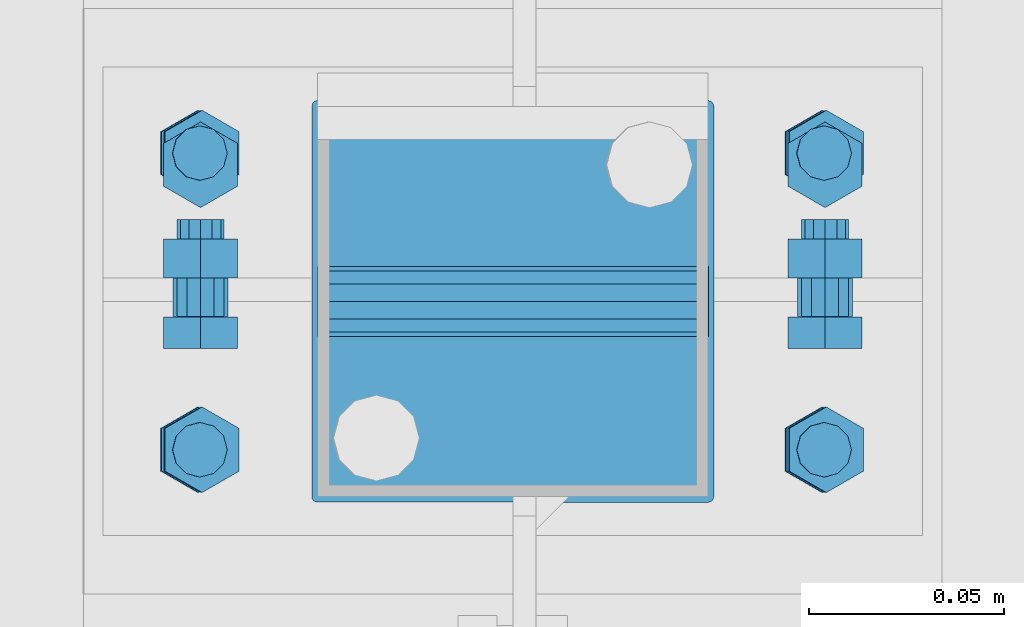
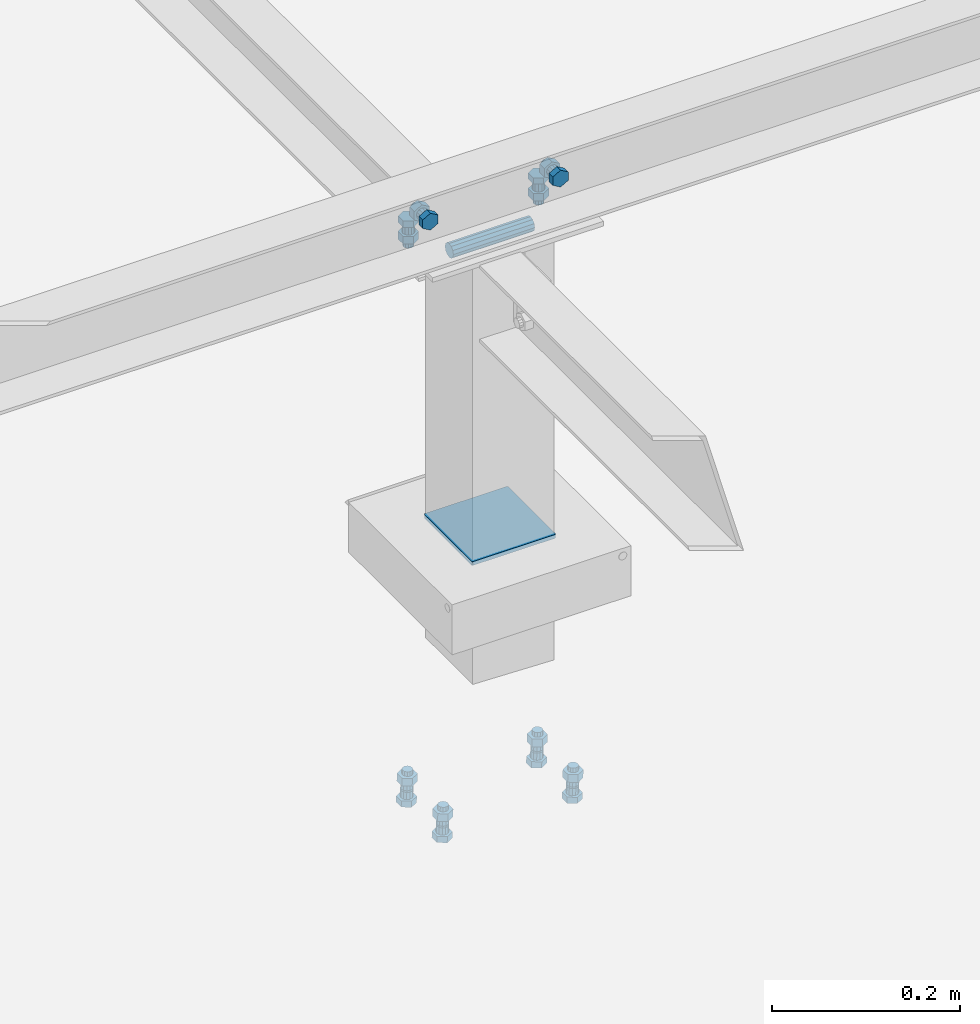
# One storey, part 343 of 3134: 6 mechanical fasteners, 4 elements without a shape of their own.
"""IFC2X3 building model written with IfcOpenShell, lengths in millimetres."""

from ifc_helpers import new_model, si_unit, frame, origin_with_axes, place, context, subcontext, project, spatial, faceted_brep, source, transform, mapped, material, type_object, element, aggregate, save


model = new_model("IFC2X3")

# Units and contexts
model_context = context("Model", 3, precision=1e-05, world=origin_with_axes())
body_context = subcontext(model_context, "Body", "Model", "MODEL_VIEW")
ifc_project = project(units=[si_unit("LENGTHUNIT", "METRE", prefix="MILLI"), si_unit("AREAUNIT", "SQUARE_METRE"), si_unit("VOLUMEUNIT", "CUBIC_METRE"), si_unit("MASSUNIT", "GRAM", prefix="KILO"), si_unit("TIMEUNIT", "SECOND"), si_unit("PLANEANGLEUNIT", "RADIAN"), si_unit("SOLIDANGLEUNIT", "STERADIAN"), si_unit("THERMODYNAMICTEMPERATUREUNIT", "DEGREE_CELSIUS"), si_unit("LUMINOUSINTENSITYUNIT", "LUMEN")], contexts=[model_context])

# Site, building, storey
site_placement = place(None, origin_with_axes())
site = spatial("IfcSite", under=ifc_project, at=site_placement, CompositionType="ELEMENT")
building_placement = place(site_placement, origin_with_axes())
building = spatial("IfcBuilding", under=site, at=building_placement, Name="Undefined", CompositionType="ELEMENT")
storey_placement = place(building_placement, origin_with_axes())
storey = spatial("IfcBuildingStorey", under=building, at=storey_placement, Name="Undefined", CompositionType="ELEMENT", Elevation=0.0)

# Assembly, mechanical fastener
assembly_1_placement = place(storey_placement, origin_with_axes())
assembly_1 = element("IfcElementAssembly", 1, at=assembly_1_placement, inside=storey, AssemblyPlace="NOTDEFINED", PredefinedType="RIGID_FRAME")
ifc_material_1 = material(Name="8.8")
mechanical_fastener_type = type_object("IfcMechanicalFastenerType", Name="Bolt assembly")
shared_shape_1 = source(origin_with_axes(), body_context, "Body", "Brep", [
    faceted_brep([(10.9696551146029, -14.0, 0.0), (5.48482755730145, -14.0, 9.5), (-5.48482755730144, -14.0, 9.5), (-10.9696551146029, -14.0, 1.34339530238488e-15), (-5.48482755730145, -14.0, -9.5), (5.48482755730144, -14.0, -9.50000000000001), (5.48482755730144, -6.0, -9.50000000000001), (-5.48482755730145, -6.0, -9.5), (-10.9696551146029, -6.0, 1.34339530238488e-15), (-5.48482755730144, -6.0, 9.5), (5.48482755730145, -6.0, 9.5), (10.9696551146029, -6.0, 0.0), (6.0, -6.0, 0.0), (5.19615242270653, -6.0, 3.00000000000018), (2.99999999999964, -6.0, 5.19615242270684), (-6.21801588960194e-13, -6.0, 6.0), (-3.00000000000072, -6.0, 5.19615242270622), (-5.19615242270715, -6.0, 2.9999999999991), (-6.0, -6.0, -1.24360317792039e-12), (-5.19615242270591, -6.0, -3.00000000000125), (-2.99999999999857, -6.0, -5.19615242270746), (1.85874342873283e-12, -6.0, -6.0), (3.00000000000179, -6.0, -5.1961524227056), (5.19615242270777, -6.0, -2.99999999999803), (5.19615242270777, 24.0, -2.99999999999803), (3.00000000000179, 24.0, -5.1961524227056), (1.85874342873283e-12, 24.0, -6.0), (-2.99999999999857, 24.0, -5.19615242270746), (-5.19615242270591, 24.0, -3.00000000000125), (-6.0, 24.0, -1.24360317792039e-12), (-5.19615242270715, 24.0, 2.9999999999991), (-3.00000000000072, 24.0, 5.19615242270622), (-6.21801588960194e-13, 24.0, 6.0), (2.99999999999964, 24.0, 5.19615242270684), (5.19615242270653, 24.0, 3.00000000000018), (6.0, 24.0, 0.0), (10.9696551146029, 6.00000000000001, 0.0), (5.48482755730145, 6.00000000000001, 9.5), (-5.48482755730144, 6.00000000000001, 9.5), (-10.9696551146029, 6.00000000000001, 1.34339530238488e-15), (-5.48482755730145, 6.00000000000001, -9.5), (5.48482755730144, 6.00000000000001, -9.50000000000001), (5.48482755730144, 16.0, -9.50000000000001), (-5.48482755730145, 16.0, -9.5), (-10.9696551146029, 16.0, 1.34339530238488e-15), (-5.48482755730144, 16.0, 9.5), (5.48482755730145, 16.0, 9.5), (10.9696551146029, 16.0, 0.0)], [[[0, 1, 2, 3, 4, 5]], [[6, 7, 8, 9, 10, 11]], [[0, 11, 10, 1]], [[1, 10, 9, 2]], [[2, 9, 8, 3]], [[3, 8, 7, 4]], [[4, 7, 6, 5]], [[5, 6, 11, 0]], [[12, 13, 14, 15, 16, 17, 18, 19, 20, 21, 22, 23]], [[24, 25, 26, 27, 28, 29, 30, 31, 32, 33, 34, 35]], [[12, 35, 34, 13]], [[13, 34, 33, 14]], [[14, 33, 32, 15]], [[15, 32, 31, 16]], [[16, 31, 30, 17]], [[17, 30, 29, 18]], [[18, 29, 28, 19]], [[19, 28, 27, 20]], [[20, 27, 26, 21]], [[21, 26, 25, 22]], [[22, 25, 24, 23]], [[23, 24, 35, 12]], [[36, 37, 38, 39, 40, 41]], [[42, 43, 44, 45, 46, 47]], [[36, 47, 46, 37]], [[37, 46, 45, 38]], [[38, 45, 44, 39]], [[39, 44, 43, 40]], [[40, 43, 42, 41]], [[41, 42, 47, 36]]]),
    faceted_brep([(7.0, -0.1, 0.0), (6.06217782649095, -0.1, 3.50000000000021), (3.49999999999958, -0.1, 6.06217782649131), (-7.25435187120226e-13, -0.1, 7.0), (-3.50000000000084, -0.1, 6.06217782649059), (-6.06217782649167, -0.1, 3.49999999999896), (-7.0, -0.1, -1.45087037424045e-12), (-6.06217782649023, -0.1, -3.50000000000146), (-3.49999999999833, -0.1, -6.06217782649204), (2.1685340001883e-12, -0.1, -7.0), (3.50000000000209, -0.1, -6.06217782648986), (6.0621778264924, -0.1, -3.4999999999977), (6.0621778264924, 6.00000000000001, -3.4999999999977), (3.50000000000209, 6.00000000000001, -6.06217782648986), (2.1685340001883e-12, 6.00000000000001, -7.0), (-3.49999999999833, 6.00000000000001, -6.06217782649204), (-6.06217782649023, 6.00000000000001, -3.50000000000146), (-7.0, 6.00000000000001, -1.45087037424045e-12), (-6.06217782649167, 6.00000000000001, 3.49999999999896), (-3.50000000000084, 6.00000000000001, 6.06217782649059), (-7.25435187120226e-13, 6.00000000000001, 7.0), (3.49999999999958, 6.00000000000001, 6.06217782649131), (6.06217782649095, 6.00000000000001, 3.50000000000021), (7.0, 6.00000000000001, 0.0), (7.0, -5.9, 0.0), (6.06217782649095, -5.9, 3.50000000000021), (3.49999999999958, -5.9, 6.06217782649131), (-7.25435187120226e-13, -5.9, 7.0), (-3.50000000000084, -5.9, 6.06217782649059), (-6.06217782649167, -5.9, 3.49999999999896), (-7.0, -5.9, -1.45087037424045e-12), (-6.06217782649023, -5.9, -3.50000000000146), (-3.49999999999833, -5.9, -6.06217782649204), (2.1685340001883e-12, -5.9, -7.0), (3.50000000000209, -5.9, -6.06217782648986), (6.0621778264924, -5.9, -3.4999999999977), (6.0621778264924, 0.0999999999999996, -3.4999999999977), (3.50000000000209, 0.0999999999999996, -6.06217782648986), (2.1685340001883e-12, 0.0999999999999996, -7.0), (-3.49999999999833, 0.0999999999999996, -6.06217782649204), (-6.06217782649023, 0.0999999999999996, -3.50000000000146), (-7.0, 0.0999999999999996, -1.45087037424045e-12), (-6.06217782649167, 0.0999999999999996, 3.49999999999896), (-3.50000000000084, 0.0999999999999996, 6.06217782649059), (-7.25435187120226e-13, 0.0999999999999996, 7.0), (3.49999999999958, 0.0999999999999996, 6.06217782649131), (6.06217782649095, 0.0999999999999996, 3.50000000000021), (7.0, 0.0999999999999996, 0.0)], [[[0, 1, 2, 3, 4, 5, 6, 7, 8, 9, 10, 11]], [[12, 13, 14, 15, 16, 17, 18, 19, 20, 21, 22, 23]], [[0, 23, 22, 1]], [[1, 22, 21, 2]], [[2, 21, 20, 3]], [[3, 20, 19, 4]], [[4, 19, 18, 5]], [[5, 18, 17, 6]], [[6, 17, 16, 7]], [[7, 16, 15, 8]], [[8, 15, 14, 9]], [[9, 14, 13, 10]], [[10, 13, 12, 11]], [[11, 12, 23, 0]], [[24, 25, 26, 27, 28, 29, 30, 31, 32, 33, 34, 35]], [[36, 37, 38, 39, 40, 41, 42, 43, 44, 45, 46, 47]], [[24, 47, 46, 25]], [[25, 46, 45, 26]], [[26, 45, 44, 27]], [[27, 44, 43, 28]], [[28, 43, 42, 29]], [[29, 42, 41, 30]], [[30, 41, 40, 31]], [[31, 40, 39, 32]], [[32, 39, 38, 33]], [[33, 38, 37, 34]], [[34, 37, 36, 35]], [[35, 36, 47, 24]]]),
])
mechanical_fastener_1_placement = place(assembly_1_placement, frame((78025.0, 5135.0, 5850.0), z_axis=(1.0, 0.0, 0.0), x_axis=(0.0, -1.0, 0.0)))
mechanical_fastener_1 = element("IfcMechanicalFastener", 2, at=mechanical_fastener_1_placement, type_object=mechanical_fastener_type, material=ifc_material_1, Name="Bolt assembly", NominalDiameter=12.0, NominalLength=30.0, context=body_context, shape_type="MappedRepresentation", body=[
    mapped(shared_shape_1, transform((0.0, -5.32963895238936e-10, -79.9999999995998))),
    mapped(shared_shape_1, transform((0.0, 5.3114490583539e-10, 79.9999999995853))),
])

assembly_2_placement = place(storey_placement, origin_with_axes())
assembly_2 = element("IfcElementAssembly", 3, at=assembly_2_placement, inside=storey, AssemblyPlace="NOTDEFINED", PredefinedType="RIGID_FRAME")
shared_shape_2 = source(origin_with_axes(), body_context, "Body", "Brep", [
    faceted_brep([(7.0, 13.0000253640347, 0.0), (6.06217782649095, 13.0000253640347, 3.50000000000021), (3.49999999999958, 13.0000253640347, 6.06217782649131), (-7.25435187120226e-13, 13.0000253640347, 7.0), (-3.50000000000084, 13.0000253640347, 6.06217782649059), (-6.06217782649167, 13.0000253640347, 3.49999999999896), (-7.0, 13.0000253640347, -1.45087037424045e-12), (-6.06217782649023, 13.0000253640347, -3.50000000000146), (-3.49999999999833, 13.0000253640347, -6.06217782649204), (2.1685340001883e-12, 13.0000253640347, -7.0), (3.50000000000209, 13.0000253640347, -6.06217782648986), (6.0621778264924, 13.0000253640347, -3.4999999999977), (6.0621778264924, 15.0999999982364, -3.4999999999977), (3.50000000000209, 15.0999999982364, -6.06217782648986), (2.1685340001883e-12, 15.0999999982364, -7.0), (-3.49999999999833, 15.0999999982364, -6.06217782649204), (-6.06217782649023, 15.0999999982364, -3.50000000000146), (-7.0, 15.0999999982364, -1.45087037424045e-12), (-6.06217782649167, 15.0999999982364, 3.49999999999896), (-3.50000000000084, 15.0999999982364, 6.06217782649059), (-7.25435187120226e-13, 15.0999999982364, 7.0), (3.49999999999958, 15.0999999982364, 6.06217782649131), (6.06217782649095, 15.0999999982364, 3.50000000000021), (7.0, 15.0999999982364, 0.0)], [[[0, 1, 2, 3, 4, 5, 6, 7, 8, 9, 10, 11]], [[12, 13, 14, 15, 16, 17, 18, 19, 20, 21, 22, 23]], [[0, 23, 22, 1]], [[1, 22, 21, 2]], [[2, 21, 20, 3]], [[3, 20, 19, 4]], [[4, 19, 18, 5]], [[5, 18, 17, 6]], [[6, 17, 16, 7]], [[7, 16, 15, 8]], [[8, 15, 14, 9]], [[9, 14, 13, 10]], [[10, 13, 12, 11]], [[11, 12, 23, 0]]]),
])
mechanical_fastener_2_placement = place(assembly_2_placement, frame((78024.3451187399, 5138.0, 5102.2772055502), z_axis=(-0.99951962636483, 0.0, 0.0309922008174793), x_axis=(0.0, -1.0, 0.0)))
mechanical_fastener_2 = element("IfcMechanicalFastener", 4, at=mechanical_fastener_2_placement, type_object=mechanical_fastener_type, material=ifc_material_1, Name="Bolt assembly", NominalDiameter=12.0, NominalLength=2.0, context=body_context, shape_type="MappedRepresentation", body=[
    mapped(shared_shape_2, transform((0.0, -5.32963895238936e-10, -79.9999999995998))),
    mapped(shared_shape_2, transform((76.0, -5.32963895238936e-10, -79.9999999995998))),
    mapped(shared_shape_2, transform((0.0, 5.3114490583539e-10, 79.9999999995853))),
    mapped(shared_shape_2, transform((76.0, 5.3114490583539e-10, 79.9999999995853))),
])
aggregate(assembly_2, [mechanical_fastener_2])

# Assembly, mechanical fasteners
assembly_3_placement = place(storey_placement, origin_with_axes())
assembly_3 = element("IfcElementAssembly", 5, at=assembly_3_placement, inside=storey, AssemblyPlace="NOTDEFINED", PredefinedType="RIGID_FRAME")
shared_shape_3 = source(origin_with_axes(), body_context, "Body", "Brep", [
    faceted_brep([(9.0, -50.0, 0.0), (7.79422863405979, -50.0, 4.50000000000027), (4.49999999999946, -50.0, 7.79422863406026), (-9.3270238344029e-13, -50.0, 9.0), (-4.50000000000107, -50.0, 7.79422863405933), (-7.79422863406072, -50.0, 4.49999999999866), (-9.0, -50.0, -1.86540476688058e-12), (-7.79422863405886, -50.0, -4.50000000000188), (-4.49999999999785, -50.0, -7.79422863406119), (2.78811514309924e-12, -50.0, -9.0), (4.50000000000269, -50.0, -7.7942286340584), (7.79422863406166, -50.0, -4.49999999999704), (7.79422863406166, 50.1, -4.49999999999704), (4.50000000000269, 50.1, -7.7942286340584), (2.78811514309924e-12, 50.1, -9.0), (-4.49999999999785, 50.1, -7.79422863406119), (-7.79422863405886, 50.1, -4.50000000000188), (-9.0, 50.1, -1.86540476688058e-12), (-7.79422863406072, 50.1, 4.49999999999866), (-4.50000000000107, 50.1, 7.79422863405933), (-9.3270238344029e-13, 50.1, 9.0), (4.49999999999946, 50.1, 7.79422863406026), (7.79422863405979, 50.1, 4.50000000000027), (9.0, 50.1, 0.0)], [[[0, 1, 2, 3, 4, 5, 6, 7, 8, 9, 10, 11]], [[12, 13, 14, 15, 16, 17, 18, 19, 20, 21, 22, 23]], [[0, 23, 22, 1]], [[1, 22, 21, 2]], [[2, 21, 20, 3]], [[3, 20, 19, 4]], [[4, 19, 18, 5]], [[5, 18, 17, 6]], [[6, 17, 16, 7]], [[7, 16, 15, 8]], [[8, 15, 14, 9]], [[9, 14, 13, 10]], [[10, 13, 12, 11]], [[11, 12, 23, 0]]]),
])
mechanical_fastener_3_placement = place(assembly_3_placement, frame((78025.0, 5100.0, 5830.0), z_axis=(0.0, 1.0, 0.0), x_axis=(0.0, 0.0, 1.0)))
mechanical_fastener_3 = element("IfcMechanicalFastener", 6, at=mechanical_fastener_3_placement, type_object=mechanical_fastener_type, material=ifc_material_1, Name="Bolt assembly", NominalDiameter=16.0, NominalLength=100.0, context=body_context, shape_type="MappedRepresentation", body=[
    mapped(shared_shape_3, transform((0.0, 0.0, 0.0))),
])
ifc_material_2 = material(Name="6.8")
shared_shape_4 = source(origin_with_axes(), body_context, "Body", "Brep", [
    faceted_brep([(51.5, 1.36424205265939e-12, 50.0), (51.3858192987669, 1.36424205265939e-12, 50.5740251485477), (51.0606601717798, 1.36424205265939e-12, 51.0606601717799), (50.5740251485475, 1.36424205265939e-12, 51.385819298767), (-50.0000000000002, 1.36424205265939e-12, 51.5), (-50.7500000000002, 1.36424205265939e-12, 51.2990381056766), (-51.2990381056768, 1.36424205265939e-12, 50.7499999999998), (-51.5, 1.36424205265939e-12, 49.9999999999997), (-51.5, 1.36424205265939e-12, -50.0000000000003), (-51.2990381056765, 1.36424205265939e-12, -50.7500000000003), (-50.7499999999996, 1.36424205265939e-12, -51.2990381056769), (-49.9999999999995, 1.36424205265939e-12, -51.5), (50.0000000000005, 1.36424205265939e-12, -51.5), (50.7500000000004, 1.36424205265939e-12, -51.2990381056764), (51.2990381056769, 1.36424205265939e-12, -50.7499999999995), (51.5, 1.36424205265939e-12, -49.9999999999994), (51.5, 5.10000000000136, -49.9999999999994), (51.2990381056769, 5.10000000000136, -50.7499999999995), (50.7500000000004, 5.10000000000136, -51.2990381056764), (50.0000000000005, 5.10000000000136, -51.5), (-49.9999999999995, 5.10000000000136, -51.5), (-50.7499999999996, 5.10000000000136, -51.2990381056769), (-51.2990381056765, 5.10000000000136, -50.7500000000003), (-51.5, 5.10000000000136, -50.0000000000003), (-51.5, 5.10000000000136, 49.9999999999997), (-51.2990381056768, 5.10000000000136, 50.7499999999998), (-50.7500000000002, 5.10000000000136, 51.2990381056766), (-50.0000000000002, 5.10000000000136, 51.5), (50.5740251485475, 5.10000000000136, 51.385819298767), (51.0606601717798, 5.10000000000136, 51.0606601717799), (51.3858192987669, 5.10000000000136, 50.5740251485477), (51.5, 5.10000000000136, 50.0)], [[[0, 1, 2, 3, 4, 5, 6, 7, 8, 9, 10, 11, 12, 13, 14, 15]], [[16, 17, 18, 19, 20, 21, 22, 23, 24, 25, 26, 27, 28, 29, 30, 31]], [[0, 31, 30, 1]], [[1, 30, 29, 2]], [[2, 29, 28, 3]], [[3, 28, 27, 4]], [[4, 27, 26, 5]], [[5, 26, 25, 6]], [[6, 25, 24, 7]], [[7, 24, 23, 8]], [[8, 23, 22, 9]], [[9, 22, 21, 10]], [[10, 21, 20, 11]], [[11, 20, 19, 12]], [[12, 19, 18, 13]], [[13, 18, 17, 14]], [[14, 17, 16, 15]], [[15, 16, 31, 0]]]),
])
mechanical_fastener_4_placement = place(assembly_3_placement, frame((78025.0, 5100.0, 5456.99), z_axis=(0.0, -1.0, 0.0), x_axis=(-1.0, 0.0, 0.0)))
mechanical_fastener_4 = element("IfcMechanicalFastener", 7, at=mechanical_fastener_4_placement, type_object=mechanical_fastener_type, material=ifc_material_2, Name="Bolt assembly", NominalDiameter=10.0, NominalLength=5.0, context=body_context, shape_type="MappedRepresentation", body=[
    mapped(shared_shape_4, transform((0.0, 0.0, 0.0))),
])
aggregate(assembly_3, [mechanical_fastener_3, mechanical_fastener_4])

# Mechanical fastener
shared_shape_5 = source(origin_with_axes(), body_context, "Body", "Brep", [
    faceted_brep([(10.9696551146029, -12.0, 0.0), (5.48482755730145, -12.0, 9.5), (-5.48482755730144, -12.0, 9.5), (-10.9696551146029, -12.0, 1.34339530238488e-15), (-5.48482755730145, -12.0, -9.5), (5.48482755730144, -12.0, -9.50000000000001), (5.48482755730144, -4.0, -9.50000000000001), (-5.48482755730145, -4.0, -9.5), (-10.9696551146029, -4.0, 1.34339530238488e-15), (-5.48482755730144, -4.0, 9.5), (5.48482755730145, -4.0, 9.5), (10.9696551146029, -4.0, 0.0), (6.0, -4.0, 0.0), (5.19615242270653, -4.0, 3.00000000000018), (2.99999999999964, -4.0, 5.19615242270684), (-6.21801588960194e-13, -4.0, 6.0), (-3.00000000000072, -4.0, 5.19615242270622), (-5.19615242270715, -4.0, 2.9999999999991), (-6.0, -4.0, -1.24360317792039e-12), (-5.19615242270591, -4.0, -3.00000000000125), (-2.99999999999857, -4.0, -5.19615242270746), (1.85874342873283e-12, -4.0, -6.0), (3.00000000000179, -4.0, -5.1961524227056), (5.19615242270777, -4.0, -2.99999999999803), (5.19615242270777, 21.0, -2.99999999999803), (3.00000000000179, 21.0, -5.1961524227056), (1.85874342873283e-12, 21.0, -6.0), (-2.99999999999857, 21.0, -5.19615242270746), (-5.19615242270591, 21.0, -3.00000000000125), (-6.0, 21.0, -1.24360317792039e-12), (-5.19615242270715, 21.0, 2.9999999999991), (-3.00000000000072, 21.0, 5.19615242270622), (-6.21801588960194e-13, 21.0, 6.0), (2.99999999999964, 21.0, 5.19615242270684), (5.19615242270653, 21.0, 3.00000000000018), (6.0, 21.0, 0.0), (10.9696551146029, 6.00000000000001, 0.0), (5.48482755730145, 6.00000000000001, 9.5), (-5.48482755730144, 6.00000000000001, 9.5), (-10.9696551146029, 6.00000000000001, 1.34339530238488e-15), (-5.48482755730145, 6.00000000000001, -9.5), (5.48482755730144, 6.00000000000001, -9.50000000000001), (5.48482755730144, 16.0, -9.50000000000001), (-5.48482755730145, 16.0, -9.5), (-10.9696551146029, 16.0, 1.34339530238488e-15), (-5.48482755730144, 16.0, 9.5), (5.48482755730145, 16.0, 9.5), (10.9696551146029, 16.0, 0.0)], [[[0, 1, 2, 3, 4, 5]], [[6, 7, 8, 9, 10, 11]], [[0, 11, 10, 1]], [[1, 10, 9, 2]], [[2, 9, 8, 3]], [[3, 8, 7, 4]], [[4, 7, 6, 5]], [[5, 6, 11, 0]], [[12, 13, 14, 15, 16, 17, 18, 19, 20, 21, 22, 23]], [[24, 25, 26, 27, 28, 29, 30, 31, 32, 33, 34, 35]], [[12, 35, 34, 13]], [[13, 34, 33, 14]], [[14, 33, 32, 15]], [[15, 32, 31, 16]], [[16, 31, 30, 17]], [[17, 30, 29, 18]], [[18, 29, 28, 19]], [[19, 28, 27, 20]], [[20, 27, 26, 21]], [[21, 26, 25, 22]], [[22, 25, 24, 23]], [[23, 24, 35, 12]], [[36, 37, 38, 39, 40, 41]], [[42, 43, 44, 45, 46, 47]], [[36, 47, 46, 37]], [[37, 46, 45, 38]], [[38, 45, 44, 39]], [[39, 44, 43, 40]], [[40, 43, 42, 41]], [[41, 42, 47, 36]]]),
    faceted_brep([(7.0, -3.9, 0.0), (6.06217782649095, -3.9, 3.50000000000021), (3.49999999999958, -3.9, 6.06217782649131), (-7.25435187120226e-13, -3.9, 7.0), (-3.50000000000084, -3.9, 6.06217782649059), (-6.06217782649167, -3.9, 3.49999999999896), (-7.0, -3.9, -1.45087037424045e-12), (-6.06217782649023, -3.9, -3.50000000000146), (-3.49999999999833, -3.9, -6.06217782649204), (2.1685340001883e-12, -3.9, -7.0), (3.50000000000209, -3.9, -6.06217782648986), (6.0621778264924, -3.9, -3.4999999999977), (6.0621778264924, 0.0999999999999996, -3.4999999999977), (3.50000000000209, 0.0999999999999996, -6.06217782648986), (2.1685340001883e-12, 0.0999999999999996, -7.0), (-3.49999999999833, 0.0999999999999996, -6.06217782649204), (-6.06217782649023, 0.0999999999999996, -3.50000000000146), (-7.0, 0.0999999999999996, -1.45087037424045e-12), (-6.06217782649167, 0.0999999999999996, 3.49999999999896), (-3.50000000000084, 0.0999999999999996, 6.06217782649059), (-7.25435187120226e-13, 0.0999999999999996, 7.0), (3.49999999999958, 0.0999999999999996, 6.06217782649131), (6.06217782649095, 0.0999999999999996, 3.50000000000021), (7.0, 0.0999999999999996, 0.0), (7.0, -0.1, 0.0), (6.06217782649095, -0.1, 3.50000000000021), (3.49999999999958, -0.1, 6.06217782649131), (-7.25435187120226e-13, -0.1, 7.0), (-3.50000000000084, -0.1, 6.06217782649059), (-6.06217782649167, -0.1, 3.49999999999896), (-7.0, -0.1, -1.45087037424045e-12), (-6.06217782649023, -0.1, -3.50000000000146), (-3.49999999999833, -0.1, -6.06217782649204), (2.1685340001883e-12, -0.1, -7.0), (3.50000000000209, -0.1, -6.06217782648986), (6.0621778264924, -0.1, -3.4999999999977), (6.0621778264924, 6.00000000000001, -3.4999999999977), (3.50000000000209, 6.00000000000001, -6.06217782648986), (2.1685340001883e-12, 6.00000000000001, -7.0), (-3.49999999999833, 6.00000000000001, -6.06217782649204), (-6.06217782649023, 6.00000000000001, -3.50000000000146), (-7.0, 6.00000000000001, -1.45087037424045e-12), (-6.06217782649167, 6.00000000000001, 3.49999999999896), (-3.50000000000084, 6.00000000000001, 6.06217782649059), (-7.25435187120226e-13, 6.00000000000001, 7.0), (3.49999999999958, 6.00000000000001, 6.06217782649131), (6.06217782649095, 6.00000000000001, 3.50000000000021), (7.0, 6.00000000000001, 0.0)], [[[0, 1, 2, 3, 4, 5, 6, 7, 8, 9, 10, 11]], [[12, 13, 14, 15, 16, 17, 18, 19, 20, 21, 22, 23]], [[0, 23, 22, 1]], [[1, 22, 21, 2]], [[2, 21, 20, 3]], [[3, 20, 19, 4]], [[4, 19, 18, 5]], [[5, 18, 17, 6]], [[6, 17, 16, 7]], [[7, 16, 15, 8]], [[8, 15, 14, 9]], [[9, 14, 13, 10]], [[10, 13, 12, 11]], [[11, 12, 23, 0]], [[24, 25, 26, 27, 28, 29, 30, 31, 32, 33, 34, 35]], [[36, 37, 38, 39, 40, 41, 42, 43, 44, 45, 46, 47]], [[24, 47, 46, 25]], [[25, 46, 45, 26]], [[26, 45, 44, 27]], [[27, 44, 43, 28]], [[28, 43, 42, 29]], [[29, 42, 41, 30]], [[30, 41, 40, 31]], [[31, 40, 39, 32]], [[32, 39, 38, 33]], [[33, 38, 37, 34]], [[34, 37, 36, 35]], [[35, 36, 47, 24]]]),
])
mechanical_fastener_5_placement = place(assembly_1_placement, frame((78025.0, 5100.0, 5885.0), z_axis=(1.0, 0.0, 0.0), x_axis=(0.0, 0.0, -1.0)))
mechanical_fastener_5 = element("IfcMechanicalFastener", 8, at=mechanical_fastener_5_placement, type_object=mechanical_fastener_type, material=ifc_material_1, Name="Bolt assembly", NominalDiameter=12.0, NominalLength=25.0, context=body_context, shape_type="MappedRepresentation", body=[
    mapped(shared_shape_5, transform((0.0, -5.32963895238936e-10, -79.9999999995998))),
    mapped(shared_shape_5, transform((0.0, 5.3114490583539e-10, 79.9999999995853))),
])

aggregate(assembly_1, [mechanical_fastener_5, mechanical_fastener_1])

# Assembly, mechanical fastener
assembly_4_placement = place(storey_placement, origin_with_axes())
assembly_4 = element("IfcElementAssembly", 9, at=assembly_4_placement, inside=storey, Name="300", AssemblyPlace="NOTDEFINED", PredefinedType="RIGID_FRAME")
shared_shape_6 = source(origin_with_axes(), body_context, "Body", "Brep", [
    faceted_brep([(10.9696551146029, -10.2004593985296, 0.0), (5.48482755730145, -10.2004593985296, 9.5), (-5.48482755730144, -10.2004593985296, 9.5), (-10.9696551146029, -10.2004593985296, 1.34339530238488e-15), (-5.48482755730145, -10.2004593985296, -9.5), (5.48482755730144, -10.2004593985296, -9.50000000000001), (5.48482755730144, -2.20045939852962, -9.50000000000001), (-5.48482755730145, -2.20045939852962, -9.5), (-10.9696551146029, -2.20045939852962, 1.34339530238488e-15), (-5.48482755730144, -2.20045939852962, 9.5), (5.48482755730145, -2.20045939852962, 9.5), (10.9696551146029, -2.20045939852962, 0.0), (6.0, -2.20045939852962, 0.0), (5.19615242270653, -2.20045939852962, 3.00000000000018), (2.99999999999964, -2.20045939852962, 5.19615242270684), (-6.21801588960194e-13, -2.20045939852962, 6.0), (-3.00000000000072, -2.20045939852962, 5.19615242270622), (-5.19615242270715, -2.20045939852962, 2.9999999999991), (-6.0, -2.20045939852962, -1.24360317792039e-12), (-5.19615242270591, -2.20045939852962, -3.00000000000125), (-2.99999999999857, -2.20045939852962, -5.19615242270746), (1.85874342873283e-12, -2.20045939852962, -6.0), (3.00000000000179, -2.20045939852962, -5.1961524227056), (5.19615242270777, -2.20045939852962, -2.99999999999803), (5.19615242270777, 32.7995406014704, -2.99999999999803), (3.00000000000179, 32.7995406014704, -5.1961524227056), (1.85874342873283e-12, 32.7995406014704, -6.0), (-2.99999999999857, 32.7995406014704, -5.19615242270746), (-5.19615242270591, 32.7995406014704, -3.00000000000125), (-6.0, 32.7995406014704, -1.24360317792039e-12), (-5.19615242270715, 32.7995406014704, 2.9999999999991), (-3.00000000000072, 32.7995406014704, 5.19615242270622), (-6.21801588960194e-13, 32.7995406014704, 6.0), (2.99999999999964, 32.7995406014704, 5.19615242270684), (5.19615242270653, 32.7995406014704, 3.00000000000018), (6.0, 32.7995406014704, 0.0), (10.9696551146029, 17.0008987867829, 0.0), (5.48482755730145, 17.0008987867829, 9.5), (-5.48482755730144, 17.0008987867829, 9.5), (-10.9696551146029, 17.0008987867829, 1.34339530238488e-15), (-5.48482755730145, 17.0008987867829, -9.5), (5.48482755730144, 17.0008987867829, -9.50000000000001), (5.48482755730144, 27.0008987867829, -9.50000000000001), (-5.48482755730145, 27.0008987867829, -9.5), (-10.9696551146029, 27.0008987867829, 1.34339530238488e-15), (-5.48482755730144, 27.0008987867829, 9.5), (5.48482755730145, 27.0008987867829, 9.5), (10.9696551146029, 27.0008987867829, 0.0)], [[[0, 1, 2, 3, 4, 5]], [[6, 7, 8, 9, 10, 11]], [[0, 11, 10, 1]], [[1, 10, 9, 2]], [[2, 9, 8, 3]], [[3, 8, 7, 4]], [[4, 7, 6, 5]], [[5, 6, 11, 0]], [[12, 13, 14, 15, 16, 17, 18, 19, 20, 21, 22, 23]], [[24, 25, 26, 27, 28, 29, 30, 31, 32, 33, 34, 35]], [[12, 35, 34, 13]], [[13, 34, 33, 14]], [[14, 33, 32, 15]], [[15, 32, 31, 16]], [[16, 31, 30, 17]], [[17, 30, 29, 18]], [[18, 29, 28, 19]], [[19, 28, 27, 20]], [[20, 27, 26, 21]], [[21, 26, 25, 22]], [[22, 25, 24, 23]], [[23, 24, 35, 12]], [[36, 37, 38, 39, 40, 41]], [[42, 43, 44, 45, 46, 47]], [[36, 47, 46, 37]], [[37, 46, 45, 38]], [[38, 45, 44, 39]], [[39, 44, 43, 40]], [[40, 43, 42, 41]], [[41, 42, 47, 36]]]),
    faceted_brep([(7.0, 8.90089878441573, 0.0), (6.06217782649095, 8.90089878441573, 3.50000000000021), (3.49999999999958, 8.90089878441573, 6.06217782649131), (-7.25435187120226e-13, 8.90089878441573, 7.0), (-3.50000000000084, 8.90089878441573, 6.06217782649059), (-6.06217782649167, 8.90089878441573, 3.49999999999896), (-7.0, 8.90089878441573, -1.45087037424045e-12), (-6.06217782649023, 8.90089878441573, -3.50000000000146), (-3.49999999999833, 8.90089878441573, -6.06217782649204), (2.1685340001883e-12, 8.90089878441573, -7.0), (3.50000000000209, 8.90089878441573, -6.06217782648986), (6.0621778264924, 8.90089878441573, -3.4999999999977), (6.0621778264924, 17.0008987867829, -3.4999999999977), (3.50000000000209, 17.0008987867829, -6.06217782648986), (2.1685340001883e-12, 17.0008987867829, -7.0), (-3.49999999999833, 17.0008987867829, -6.06217782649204), (-6.06217782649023, 17.0008987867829, -3.50000000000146), (-7.0, 17.0008987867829, -1.45087037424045e-12), (-6.06217782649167, 17.0008987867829, 3.49999999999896), (-3.50000000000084, 17.0008987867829, 6.06217782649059), (-7.25435187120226e-13, 17.0008987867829, 7.0), (3.49999999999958, 17.0008987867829, 6.06217782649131), (6.06217782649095, 17.0008987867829, 3.50000000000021), (7.0, 17.0008987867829, 0.0), (7.0, -2.10045939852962, 0.0), (6.06217782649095, -2.10045939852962, 3.50000000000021), (3.49999999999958, -2.10045939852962, 6.06217782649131), (-7.25435187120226e-13, -2.10045939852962, 7.0), (-3.50000000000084, -2.10045939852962, 6.06217782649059), (-6.06217782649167, -2.10045939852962, 3.49999999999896), (-7.0, -2.10045939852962, -1.45087037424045e-12), (-6.06217782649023, -2.10045939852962, -3.50000000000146), (-3.49999999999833, -2.10045939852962, -6.06217782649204), (2.1685340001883e-12, -2.10045939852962, -7.0), (3.50000000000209, -2.10045939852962, -6.06217782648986), (6.0621778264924, -2.10045939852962, -3.4999999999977), (6.0621778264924, 7.09954041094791, -3.4999999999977), (3.50000000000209, 7.09954041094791, -6.06217782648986), (2.1685340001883e-12, 7.09954041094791, -7.0), (-3.49999999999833, 7.09954041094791, -6.06217782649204), (-6.06217782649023, 7.09954041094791, -3.50000000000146), (-7.0, 7.09954041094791, -1.45087037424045e-12), (-6.06217782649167, 7.09954041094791, 3.49999999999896), (-3.50000000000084, 7.09954041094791, 6.06217782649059), (-7.25435187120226e-13, 7.09954041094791, 7.0), (3.49999999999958, 7.09954041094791, 6.06217782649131), (6.06217782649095, 7.09954041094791, 3.50000000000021), (7.0, 7.09954041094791, 0.0)], [[[0, 1, 2, 3, 4, 5, 6, 7, 8, 9, 10, 11]], [[12, 13, 14, 15, 16, 17, 18, 19, 20, 21, 22, 23]], [[0, 23, 22, 1]], [[1, 22, 21, 2]], [[2, 21, 20, 3]], [[3, 20, 19, 4]], [[4, 19, 18, 5]], [[5, 18, 17, 6]], [[6, 17, 16, 7]], [[7, 16, 15, 8]], [[8, 15, 14, 9]], [[9, 14, 13, 10]], [[10, 13, 12, 11]], [[11, 12, 23, 0]], [[24, 25, 26, 27, 28, 29, 30, 31, 32, 33, 34, 35]], [[36, 37, 38, 39, 40, 41, 42, 43, 44, 45, 46, 47]], [[24, 47, 46, 25]], [[25, 46, 45, 26]], [[26, 45, 44, 27]], [[27, 44, 43, 28]], [[28, 43, 42, 29]], [[29, 42, 41, 30]], [[30, 41, 40, 31]], [[31, 40, 39, 32]], [[32, 39, 38, 33]], [[33, 38, 37, 34]], [[34, 37, 36, 35]], [[35, 36, 47, 24]]]),
])
mechanical_fastener_6_placement = place(assembly_4_placement, frame((78024.5351187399, 5138.0, 5108.2872055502), z_axis=(-0.99951962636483, 0.0, 0.0309922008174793), x_axis=(0.0, -1.0, 0.0)))
mechanical_fastener_6 = element("IfcMechanicalFastener", 10, at=mechanical_fastener_6_placement, type_object=mechanical_fastener_type, material=ifc_material_1, Name="Bolt assembly", NominalDiameter=12.0, NominalLength=35.0, context=body_context, shape_type="MappedRepresentation", body=[
    mapped(shared_shape_6, transform((0.0, -5.32963895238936e-10, -79.9999999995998))),
    mapped(shared_shape_6, transform((76.0, -5.32963895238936e-10, -79.9999999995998))),
    mapped(shared_shape_6, transform((0.0, 5.3114490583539e-10, 79.9999999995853))),
    mapped(shared_shape_6, transform((76.0, 5.3114490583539e-10, 79.9999999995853))),
])
aggregate(assembly_4, [mechanical_fastener_6])

save(model, "model.ifc")
